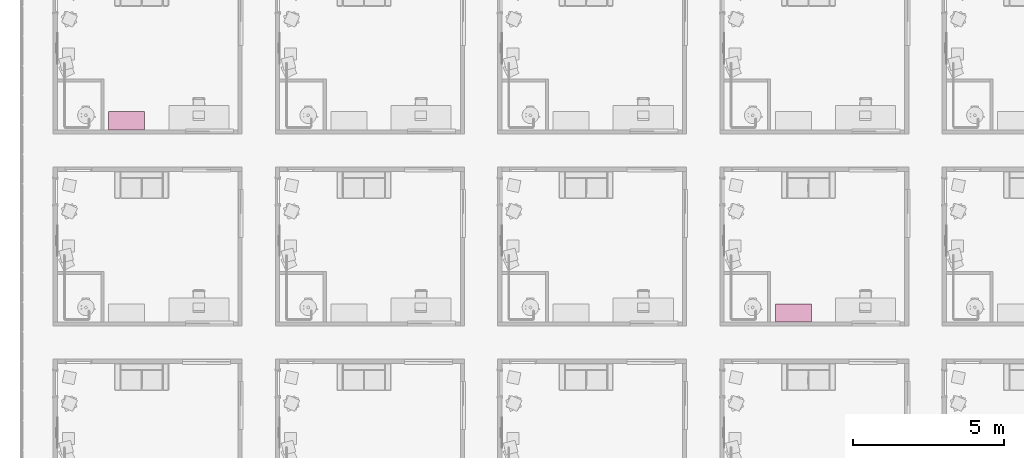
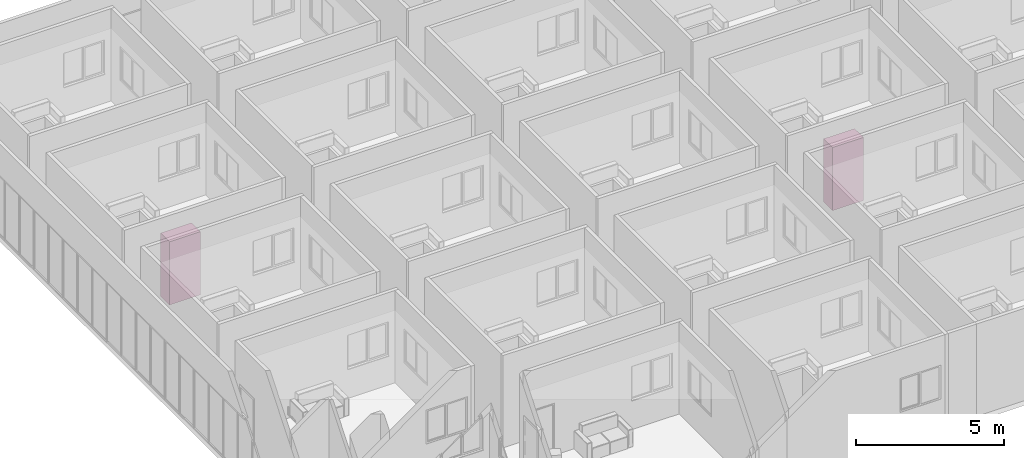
# One storey, part 58 of 69: 2 furniture elements.
"""IFC4 building model written with IfcOpenShell, lengths in centimetres."""

import ifcopenshell
import ifcopenshell.guid

model = None  # the IFC model being written
_history = None  # IfcOwnerHistory: only IFC2X3 demands one
_inside = {}  # id of a spatial element -> (the spatial element, [elements in it])
_under = {}  # id of a project, library or spatial element -> (it, [spatial elements below it])
_declared = {}  # id of a project -> (the project, [libraries it declares])
_typed = {}  # id of a type object -> (the type object, [elements of that type])
_made_of = {}  # id of a material, layer set ... -> (it, [elements and type objects made of it])


def new_model(schema):
    """Start an empty IFC model of exactly this schema.

    Asked for "IFC4X3", IfcOpenShell would pick the latest addendum, in which some entities
    have other attributes; the version numbers below select the first issue.
    IFC2X3 requires an IfcOwnerHistory on every rooted entity: one is made here for all.
    """
    global model, _history
    if schema == "IFC4X3":
        model = ifcopenshell.file(schema_version=(4, 3, 0, 0))
    else:
        model = ifcopenshell.file(schema=schema)
    _inside.clear()
    _under.clear()
    _declared.clear()
    _typed.clear()
    _made_of.clear()
    _history = None
    if model.schema == "IFC2X3":
        org = make("IfcOrganization", Name="unknown")
        user = make(
            "IfcPersonAndOrganization",
            ThePerson=make("IfcPerson", FamilyName="unknown"),
            TheOrganization=org,
        )
        app = make(
            "IfcApplication",
            ApplicationDeveloper=org,
            Version="unknown",
            ApplicationFullName="unknown",
            ApplicationIdentifier="unknown",
        )
        _history = make(
            "IfcOwnerHistory",
            OwningUser=user,
            OwningApplication=app,
            ChangeAction="ADDED",
            CreationDate=0,
        )
    return model


def make(cls, **values):
    """One entity of the class cls with the attributes given. An attribute that is None is left unset."""
    return model.create_entity(
        cls, **{name: value for name, value in values.items() if value is not None}
    )


def entity(cls, *values):
    """Any entity or typed value of the class cls, its attributes in the order of the schema. None: left unset."""
    e = model.create_entity(cls)
    for i, value in enumerate(values):
        if value is not None:
            e[i] = value
    return e


def rooted(cls, **values):
    """An entity with a GlobalId (a new one), such as an element, a storey or a relation."""
    return make(cls, GlobalId=ifcopenshell.guid.new(), OwnerHistory=_history, **values)


def si_unit(unit_type, name, prefix=None):
    """IfcSIUnit, for example si_unit("LENGTHUNIT", "METRE", prefix="MILLI")."""
    return make("IfcSIUnit", UnitType=unit_type, Prefix=prefix, Name=name)


def converted_unit(unit_type, name, factor, base, dimensions=None, offset=None):
    """IfcConversionBasedUnit, such as the inch: factor (a typed value) times the base unit."""
    return make(
        "IfcConversionBasedUnit"
        if offset is None
        else "IfcConversionBasedUnitWithOffset",
        ConversionOffset=offset,
        Dimensions=None
        if dimensions is None
        else entity("IfcDimensionalExponents", *dimensions),
        UnitType=unit_type,
        Name=name,
        ConversionFactor=make(
            "IfcMeasureWithUnit", ValueComponent=factor, UnitComponent=base
        ),
    )


def derived_unit(unit_type, elements):
    """IfcDerivedUnit: a product of units, each with its exponent."""
    return make(
        "IfcDerivedUnit",
        Elements=[
            make("IfcDerivedUnitElement", Unit=unit, Exponent=power)
            for unit, power in elements
        ],
        UnitType=unit_type,
    )


def assignment(units):
    """IfcUnitAssignment: the units of a project."""
    return None if units is None else make("IfcUnitAssignment", Units=units)


def point(xyz):
    """IfcCartesianPoint."""
    return None if xyz is None else make("IfcCartesianPoint", Coordinates=xyz)


def direction(xyz):
    """IfcDirection."""
    return None if xyz is None else make("IfcDirection", DirectionRatios=xyz)


def frame(location, z_axis=None, x_axis=None):
    """IfcAxis2Placement3D, a coordinate frame: its origin and axes. An axis left out is left unset."""
    return make(
        "IfcAxis2Placement3D",
        Location=point(location),
        Axis=direction(z_axis),
        RefDirection=direction(x_axis),
    )


def origin():
    """The frame at (0, 0, 0) with its axes left unset."""
    return frame((0.0, 0.0, 0.0))


def place(relative_to, where):
    """IfcLocalPlacement: puts the frame where relative to a parent placement (None: the world)."""
    return make(
        "IfcLocalPlacement", PlacementRelTo=relative_to, RelativePlacement=where
    )


def context(
    kind, dimensions, precision=None, world=None, true_north=None, identifier=None
):
    """IfcGeometricRepresentationContext, for example the 3D "Model" context."""
    return make(
        "IfcGeometricRepresentationContext",
        ContextIdentifier=identifier,
        ContextType=kind,
        CoordinateSpaceDimension=dimensions,
        Precision=precision,
        WorldCoordinateSystem=world,
        TrueNorth=true_north,
    )


def subcontext(parent, identifier, kind, view, scale=None):
    """IfcGeometricRepresentationSubContext, for example "Body" below "Model"."""
    return make(
        "IfcGeometricRepresentationSubContext",
        ContextIdentifier=identifier,
        ContextType=kind,
        ParentContext=parent,
        TargetScale=scale,
        TargetView=view,
    )


def project(units=None, contexts=None):
    """IfcProject with its units and contexts."""
    return rooted(
        "IfcProject",
        Name="project",
        RepresentationContexts=contexts,
        UnitsInContext=assignment(units),
    )


def spatial(cls, under=None, at=None, **own):
    """A site, building, storey or space (cls), placed at a placement, below another one or the project."""
    s = rooted(cls, ObjectPlacement=at, **own)
    if under is not None:
        _under.setdefault(under.id(), (under, []))[1].append(s)
    return s


def point_list(points):
    """IfcCartesianPointList2D or 3D."""
    cls = (
        "IfcCartesianPointList2D" if len(points[0]) == 2 else "IfcCartesianPointList3D"
    )
    return make(cls, CoordList=points)


def indexed_curve(points, segments=None, self_intersect=None):
    """IfcIndexedPolyCurve: lines and arcs through numbered points (the first is 1)."""
    return make(
        "IfcIndexedPolyCurve",
        Points=point_list(points),
        Segments=segments,
        SelfIntersect=self_intersect,
    )


def outline(outer, holes=None, kind="AREA"):
    """IfcArbitraryClosedProfileDef: a profile drawn as a closed curve; with holes, ...WithVoids."""
    if holes is None:
        return make("IfcArbitraryClosedProfileDef", ProfileType=kind, OuterCurve=outer)
    return make(
        "IfcArbitraryProfileDefWithVoids",
        ProfileType=kind,
        OuterCurve=outer,
        InnerCurves=holes,
    )


def extrude(swept, where, along, depth):
    """IfcExtrudedAreaSolid: the profile swept, set in the frame where, extruded along a direction by depth."""
    return make(
        "IfcExtrudedAreaSolid",
        SweptArea=swept,
        Position=where,
        ExtrudedDirection=direction(along),
        Depth=depth,
    )


def shape(context_of_items, identifier, shape_type, items):
    """IfcShapeRepresentation: the items that make up one representation, for example the "Body"."""
    return make(
        "IfcShapeRepresentation",
        ContextOfItems=context_of_items,
        RepresentationIdentifier=identifier,
        RepresentationType=shape_type,
        Items=items,
    )


def source(mapping_origin, context_of_items, identifier, shape_type, items):
    """IfcRepresentationMap: a shape defined once, which mapped items show again and again."""
    return make(
        "IfcRepresentationMap",
        MappingOrigin=mapping_origin,
        MappedRepresentation=shape(context_of_items, identifier, shape_type, items),
    )


def transform(
    local_origin,
    x_axis=None,
    y_axis=None,
    z_axis=None,
    scale=None,
    scale2=None,
    scale3=None,
    uniform=True,
):
    """IfcCartesianTransformationOperator3D, or its non-uniform kind. x_axis, y_axis, z_axis: its Axis1, 2, 3."""
    if uniform:
        return make(
            "IfcCartesianTransformationOperator3D",
            Axis1=direction(x_axis),
            Axis2=direction(y_axis),
            LocalOrigin=point(local_origin),
            Scale=scale,
            Axis3=direction(z_axis),
        )
    return make(
        "IfcCartesianTransformationOperator3DnonUniform",
        Axis1=direction(x_axis),
        Axis2=direction(y_axis),
        LocalOrigin=point(local_origin),
        Scale=scale,
        Axis3=direction(z_axis),
        Scale2=scale2,
        Scale3=scale3,
    )


def mapped(mapping_source, mapping_target):
    """IfcMappedItem: shows the shape of a source again, moved by a transform."""
    return make(
        "IfcMappedItem", MappingSource=mapping_source, MappingTarget=mapping_target
    )


def material(Name=None, Category=None):
    """IfcMaterial."""
    return make("IfcMaterial", Name=Name, Category=Category)


def made_of(thing, what):
    """Note that an element or type object is made of a material, layer set ...; save() writes the relation."""
    if what is not None:
        _made_of.setdefault(what.id(), (what, []))[1].append(thing)
    return thing


def type_object(cls, material=None, **own):
    """A type object (cls), such as IfcWallType, which elements share."""
    return made_of(rooted(cls, **own), material)


def type_shapes(of_type, sources):
    """Give a type object the sources (RepresentationMaps) that its elements show as mapped items."""
    of_type.RepresentationMaps = sources


def element(
    cls,
    number,
    at=None,
    inside=None,
    cuts=None,
    type_object=None,
    material=None,
    context=None,
    identifier="Body",
    shape_type=None,
    held_by="IfcProductDefinitionShape",
    body=None,
    shapes=None,
    **own,
):
    """One element of the class cls, such as IfcWall. Its Tag is "e" and its number.

    at: its placement. inside: the storey or other place that contains it. cuts: it is an
    opening in that element (IfcRelVoidsElement). A single representation is given by context,
    identifier, shape_type and body (its items); several are given by shapes. held_by: the class
    of the entity that holds the representations. save() writes the other relations.
    """
    e = rooted(cls, Tag="e%d" % number, ObjectPlacement=at, **own)
    if body is not None:
        shapes = [shape(context, identifier, shape_type, body)]
    if shapes is not None:
        e.Representation = make(held_by, Representations=shapes)
    if inside is not None:
        _inside.setdefault(inside.id(), (inside, []))[1].append(e)
    if cuts is not None:
        rooted(
            "IfcRelVoidsElement", RelatingBuildingElement=cuts, RelatedOpeningElement=e
        )
    if type_object is not None:
        _typed.setdefault(type_object.id(), (type_object, []))[1].append(e)
    return made_of(e, material)


def aggregate(whole, parts):
    """IfcRelAggregates: a whole, such as a stair, and the parts it consists of."""
    return rooted("IfcRelAggregates", RelatingObject=whole, RelatedObjects=parts)


def save(model, path):
    """Write the relations noted so far, then the file.

    IfcRelAggregates (storeys below a building ...), IfcRelContainedInSpatialStructure (elements
    in a storey), IfcRelDefinesByType, IfcRelAssociatesMaterial and IfcRelDeclares: one each for
    every whole, place, type object, material and project.
    """
    for whole, parts in _under.values():
        aggregate(whole, parts)
    for where, things in _inside.values():
        rooted(
            "IfcRelContainedInSpatialStructure",
            RelatedElements=things,
            RelatingStructure=where,
        )
    for kind, things in _typed.values():
        rooted("IfcRelDefinesByType", RelatedObjects=things, RelatingType=kind)
    for what, things in _made_of.values():
        rooted("IfcRelAssociatesMaterial", RelatedObjects=things, RelatingMaterial=what)
    for by, libraries in _declared.values():
        rooted("IfcRelDeclares", RelatingContext=by, RelatedDefinitions=libraries)
    model.write(path)


model = new_model("IFC4")

# Units and contexts
model_context = context("Model", 3, precision=0.001, world=origin(), true_north=direction((6.123233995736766e-17, 1.0)))
body_context = subcontext(model_context, "Body", "Model", "MODEL_VIEW")
ifc_project = project(units=[si_unit("LENGTHUNIT", "METRE", prefix="CENTI"), si_unit("AREAUNIT", "SQUARE_METRE"), si_unit("VOLUMEUNIT", "CUBIC_METRE"), derived_unit("THERMALTRANSMITTANCEUNIT", [(si_unit("MASSUNIT", "GRAM", prefix="KILO"), 1), (si_unit("THERMODYNAMICTEMPERATUREUNIT", "KELVIN"), -1), (si_unit("TIMEUNIT", "SECOND"), -3)]), converted_unit("PLANEANGLEUNIT", "DEGREE", entity("IfcPlaneAngleMeasure", 0.017453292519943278), si_unit("PLANEANGLEUNIT", "RADIAN"), dimensions=[0, 0, 0, 0, 0, 0, 0]), derived_unit("MASSDENSITYUNIT", [(si_unit("MASSUNIT", "GRAM", prefix="KILO"), 1), (si_unit("LENGTHUNIT", "METRE"), -3)]), derived_unit("VAPORPERMEABILITYUNIT", [(si_unit("LENGTHUNIT", "METRE"), -1), (si_unit("TIMEUNIT", "SECOND"), 1)]), derived_unit("USERDEFINED", [(si_unit("MASSUNIT", "GRAM", prefix="KILO"), 1), (si_unit("TIMEUNIT", "SECOND"), -3), (si_unit("LENGTHUNIT", "METRE"), 3), (si_unit("ELECTRICCURRENTUNIT", "AMPERE"), -2)]), derived_unit("SPECIFICHEATCAPACITYUNIT", [(si_unit("THERMODYNAMICTEMPERATUREUNIT", "KELVIN"), -1), (si_unit("LENGTHUNIT", "METRE"), 2), (si_unit("TIMEUNIT", "SECOND"), -2)]), derived_unit("THERMALCONDUCTANCEUNIT", [(si_unit("MASSUNIT", "GRAM", prefix="KILO"), 1), (si_unit("THERMODYNAMICTEMPERATUREUNIT", "KELVIN"), -1), (si_unit("TIMEUNIT", "SECOND"), -3), (si_unit("LENGTHUNIT", "METRE"), 1)]), si_unit("PRESSUREUNIT", "PASCAL"), derived_unit("MODULUSOFELASTICITYUNIT", [(si_unit("MASSUNIT", "GRAM", prefix="KILO"), 1), (si_unit("LENGTHUNIT", "METRE"), -1), (si_unit("TIMEUNIT", "SECOND"), -2)]), derived_unit("THERMALEXPANSIONCOEFFICIENTUNIT", [(si_unit("THERMODYNAMICTEMPERATUREUNIT", "KELVIN"), -1)])], contexts=[model_context])

# Site, building, storey, space
site_placement = place(None, origin())
site = spatial("IfcSite", under=ifc_project, at=site_placement, Name="Default", CompositionType="ELEMENT")
building_placement = place(site_placement, origin())
building = spatial("IfcBuilding", under=site, at=building_placement, Name="IDS Escape Game Building", CompositionType="ELEMENT")
storey_placement = place(building_placement, origin())
storey = spatial("IfcBuildingStorey", under=building, at=storey_placement, Name="00_Ground Floor", CompositionType="ELEMENT", Elevation=0.0)
space_1_placement = place(storey_placement, origin())
space_1 = spatial("IfcSpace", under=storey, at=space_1_placement, Name="18", CompositionType="ELEMENT", PredefinedType="NOTDEFINED")

# Furniture
ifc_material = material(Name="<Unnamed>")
furniture_type = type_object("IfcFurnitureType", Name="BPL_82.11_CA_UN_kast_gen_BERSnl:type 1", AssemblyPlace="NOTDEFINED", PredefinedType="NOTDEFINED", material=ifc_material)
shared_shape = source(origin(), body_context, "Body", "SweptSolid", [
    extrude(outline(indexed_curve([(-59.99999999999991, -29.999999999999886), (59.99999999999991, -29.999999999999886), (59.99999999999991, 29.999999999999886), (-59.99999999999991, 29.999999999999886), (-59.99999999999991, -29.999999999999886)], self_intersect=False)), frame((-60.0, -30.0, 0.0), z_axis=(0.0, 0.0, 1.0), x_axis=(-1.0, 0.0, 0.0)), (0.0, 0.0, 1.0), 260.0),
])
type_shapes(furniture_type, [shared_shape])
furniture_1_placement = place(space_1_placement, frame((2511.0, 1349.0, 0.0)))
element("IfcFurniture", 1, at=furniture_1_placement, inside=space_1, type_object=furniture_type, material=ifc_material, Name="BPL_82.11_CA_UN_kast_gen_BERSnl:type 1", ObjectType="BPL_82.11_CA_UN_kast_gen_BERSnl:type 1", PredefinedType="NOTDEFINED", context=body_context, shape_type="MappedRepresentation", body=[
    mapped(shared_shape, transform((0.0, 0.0, 0.0), scale=1.0)),
])

# Space
space_2_placement = place(storey_placement, origin())
space_2 = spatial("IfcSpace", under=storey, at=space_2_placement, Name="22", CompositionType="ELEMENT", PredefinedType="NOTDEFINED")

# Furniture
furniture_2_placement = place(space_2_placement, frame((297.0, 1987.0, 0.0)))
element("IfcFurniture", 2, at=furniture_2_placement, inside=space_2, type_object=furniture_type, material=ifc_material, Name="BPL_82.11_CA_UN_kast_gen_BERSnl:type 1", ObjectType="BPL_82.11_CA_UN_kast_gen_BERSnl:type 1", PredefinedType="NOTDEFINED", context=body_context, shape_type="MappedRepresentation", body=[
    mapped(shared_shape, transform((0.0, 0.0, 0.0), scale=1.0)),
])

save(model, "model.ifc")
